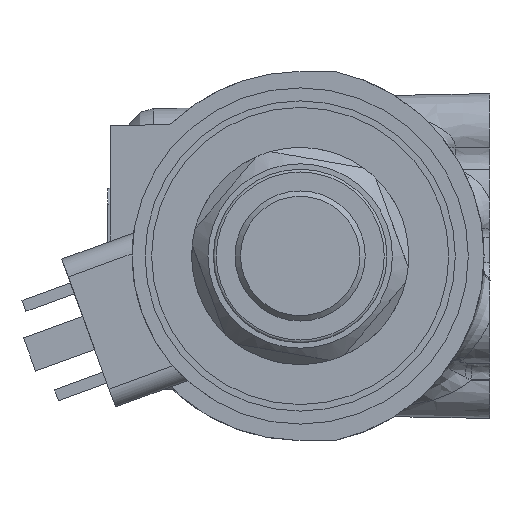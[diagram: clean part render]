
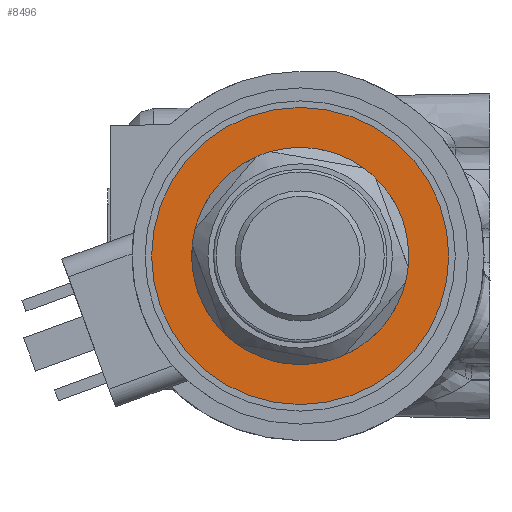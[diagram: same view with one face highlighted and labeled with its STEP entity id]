
A CAD part, left-side view. The second image highlights one B-rep face of the part: STEP entity #8496.
In plain terms, the highlighted planar face has unit normal (-1, 0, 0).
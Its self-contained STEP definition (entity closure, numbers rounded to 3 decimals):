
#555=FACE_BOUND('',#1587,.T.);
#711=PLANE('',#9147);
#1041=FACE_OUTER_BOUND('',#1586,.T.);
#1586=EDGE_LOOP('',(#6492,#6493));
#1587=EDGE_LOOP('',(#6494,#6495));
#2077=CIRCLE('',#9145,20.);
#2078=CIRCLE('',#9146,20.);
#2079=CIRCLE('',#9148,27.4);
#2080=CIRCLE('',#9149,27.4);
#3807=VERTEX_POINT('',#12919);
#3808=VERTEX_POINT('',#12921);
#3809=VERTEX_POINT('',#12925);
#3810=VERTEX_POINT('',#12926);
#4772=EDGE_CURVE('',#3807,#3808,#2077,.T.);
#4773=EDGE_CURVE('',#3808,#3807,#2078,.T.);
#4774=EDGE_CURVE('',#3809,#3810,#2079,.T.);
#4775=EDGE_CURVE('',#3810,#3809,#2080,.T.);
#6492=ORIENTED_EDGE('',*,*,#4774,.F.);
#6493=ORIENTED_EDGE('',*,*,#4775,.F.);
#6494=ORIENTED_EDGE('',*,*,#4773,.F.);
#6495=ORIENTED_EDGE('',*,*,#4772,.F.);
#8496=ADVANCED_FACE('',(#1041,#555),#711,.T.);
#9145=AXIS2_PLACEMENT_3D('',#12922,#10585,#10586);
#9146=AXIS2_PLACEMENT_3D('',#12923,#10587,#10588);
#9147=AXIS2_PLACEMENT_3D('',#12924,#10589,#10590);
#9148=AXIS2_PLACEMENT_3D('',#12927,#10591,#10592);
#9149=AXIS2_PLACEMENT_3D('',#12928,#10593,#10594);
#10585=DIRECTION('center_axis',(-1.,0.,0.));
#10586=DIRECTION('ref_axis',(0.,-0.94,0.342));
#10587=DIRECTION('center_axis',(-1.,0.,0.));
#10588=DIRECTION('ref_axis',(0.,-0.94,0.342));
#10589=DIRECTION('center_axis',(-1.,0.,0.));
#10590=DIRECTION('ref_axis',(0.,0.94,-0.342));
#10591=DIRECTION('center_axis',(1.,0.,0.));
#10592=DIRECTION('ref_axis',(0.,-0.94,0.342));
#10593=DIRECTION('center_axis',(1.,0.,0.));
#10594=DIRECTION('ref_axis',(0.,-0.94,0.342));
#12919=CARTESIAN_POINT('',(-124.5,-18.794,6.84));
#12921=CARTESIAN_POINT('',(-124.5,18.794,-6.84));
#12922=CARTESIAN_POINT('Origin',(-124.5,0.,0.));
#12923=CARTESIAN_POINT('Origin',(-124.5,0.,0.));
#12924=CARTESIAN_POINT('Origin',(-124.5,0.,0.));
#12925=CARTESIAN_POINT('',(-124.5,25.748,-9.371));
#12926=CARTESIAN_POINT('',(-124.5,-25.748,9.371));
#12927=CARTESIAN_POINT('Origin',(-124.5,0.,0.));
#12928=CARTESIAN_POINT('Origin',(-124.5,0.,0.));
